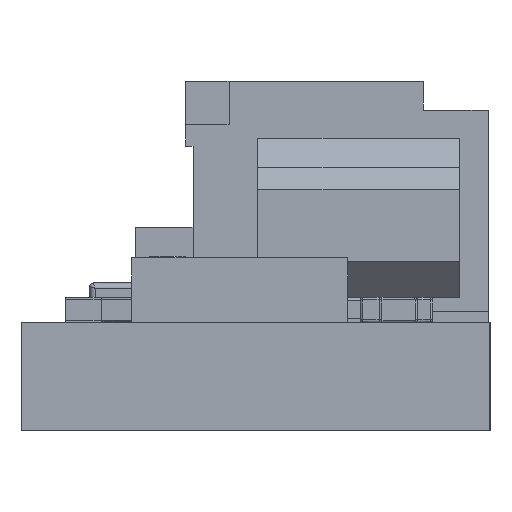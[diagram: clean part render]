
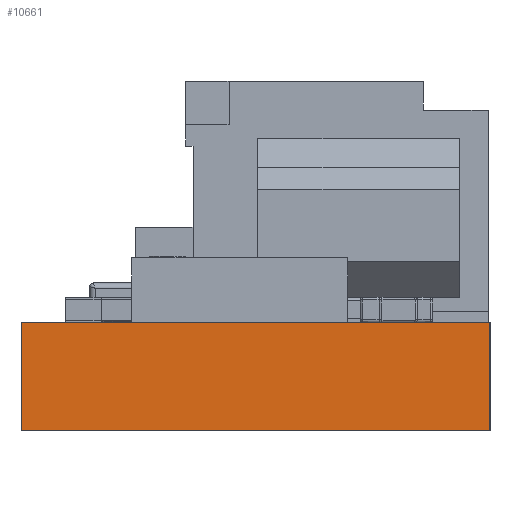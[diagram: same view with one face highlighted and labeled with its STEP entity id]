
A CAD part, left-side view. The second image highlights one B-rep face of the part: STEP entity #10661.
In plain terms, the highlighted planar face has unit normal (-1, 0, 0).
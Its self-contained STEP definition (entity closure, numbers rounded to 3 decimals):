
#749=PLANE('',#11442);
#1219=FACE_OUTER_BOUND('',#1850,.T.);
#1850=EDGE_LOOP('',(#7878,#7879,#7880,#7881));
#2562=LINE('',#15628,#3733);
#2565=LINE('',#15634,#3736);
#2570=LINE('',#15644,#3741);
#2572=LINE('',#15647,#3743);
#3733=VECTOR('',#12651,1.);
#3736=VECTOR('',#12656,1.);
#3741=VECTOR('',#12665,1.);
#3743=VECTOR('',#12669,1.);
#5156=VERTEX_POINT('',#15625);
#5157=VERTEX_POINT('',#15627);
#5159=VERTEX_POINT('',#15633);
#5162=VERTEX_POINT('',#15643);
#6182=EDGE_CURVE('',#5156,#5157,#2562,.T.);
#6185=EDGE_CURVE('',#5156,#5159,#2565,.T.);
#6190=EDGE_CURVE('',#5157,#5162,#2570,.T.);
#6192=EDGE_CURVE('',#5162,#5159,#2572,.T.);
#7878=ORIENTED_EDGE('',*,*,#6190,.F.);
#7879=ORIENTED_EDGE('',*,*,#6182,.F.);
#7880=ORIENTED_EDGE('',*,*,#6185,.T.);
#7881=ORIENTED_EDGE('',*,*,#6192,.F.);
#10661=ADVANCED_FACE('',(#1219),#749,.F.);
#11442=AXIS2_PLACEMENT_3D('',#15646,#12667,#12668);
#12651=DIRECTION('',(0.,1.,0.));
#12656=DIRECTION('',(0.,0.,1.));
#12665=DIRECTION('',(0.,0.,1.));
#12667=DIRECTION('center_axis',(1.,0.,0.));
#12668=DIRECTION('ref_axis',(0.,-1.,0.));
#12669=DIRECTION('',(0.,-1.,0.));
#15625=CARTESIAN_POINT('',(0.,0.,-1.5));
#15627=CARTESIAN_POINT('',(0.,6.5,-1.5));
#15628=CARTESIAN_POINT('',(0.,6.5,-1.5));
#15633=CARTESIAN_POINT('',(0.,0.,0.));
#15634=CARTESIAN_POINT('',(0.,0.,-0.411));
#15643=CARTESIAN_POINT('',(0.,6.5,0.));
#15644=CARTESIAN_POINT('',(0.,6.5,-0.411));
#15646=CARTESIAN_POINT('Origin',(0.,6.5,-0.411));
#15647=CARTESIAN_POINT('',(0.,6.5,0.));
